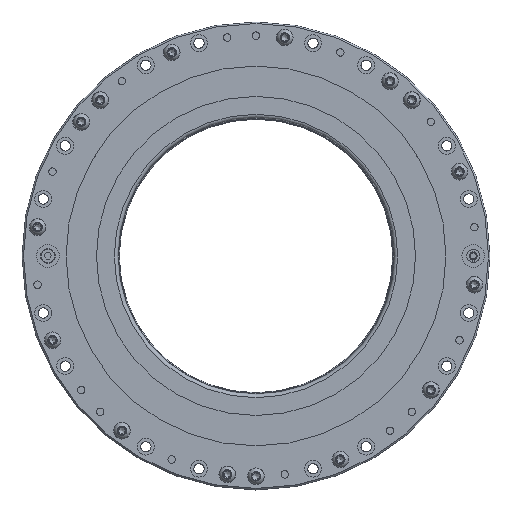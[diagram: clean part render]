
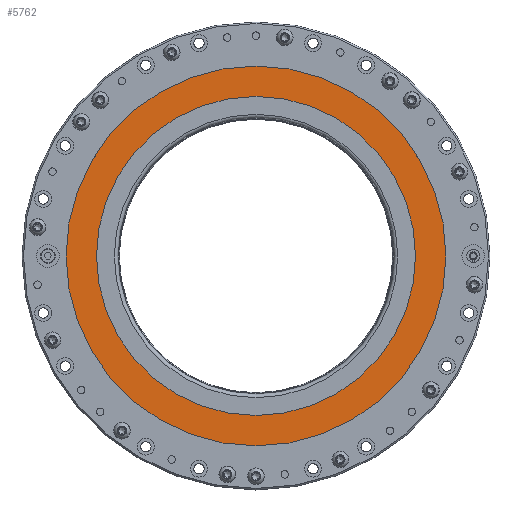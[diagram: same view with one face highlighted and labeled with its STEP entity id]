
A CAD part, top view. The second image highlights one B-rep face of the part: STEP entity #5762.
In plain terms, the highlighted planar face has unit normal (0, 0, 1) as drawn and (0, 0, -1) by its records, which use the part's own axes.
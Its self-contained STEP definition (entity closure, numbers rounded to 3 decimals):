
#394=PLANE('',#6199);
#573=CIRCLE('',#6200,105.);
#574=CIRCLE('',#6201,125.);
#1174=ORIENTED_EDGE('',*,*,#1938,.T.);
#1175=ORIENTED_EDGE('',*,*,#1939,.F.);
#1938=EDGE_CURVE('',#2396,#2396,#573,.T.);
#1939=EDGE_CURVE('',#2397,#2397,#574,.T.);
#2396=VERTEX_POINT('',#8957);
#2397=VERTEX_POINT('',#8959);
#3102=EDGE_LOOP('',(#1174));
#3103=EDGE_LOOP('',(#1175));
#3649=FACE_BOUND('',#3102,.T.);
#3650=FACE_BOUND('',#3103,.T.);
#5762=ADVANCED_FACE('',(#3649,#3650),#394,.F.);
#6199=AXIS2_PLACEMENT_3D('',#8955,#7097,#7098);
#6200=AXIS2_PLACEMENT_3D('',#8956,#7099,#7100);
#6201=AXIS2_PLACEMENT_3D('',#8958,#7101,#7102);
#7097=DIRECTION('',(0.,0.,1.));
#7098=DIRECTION('',(1.,0.,0.));
#7099=DIRECTION('',(0.,0.,1.));
#7100=DIRECTION('',(1.,0.,0.));
#7101=DIRECTION('',(0.,0.,1.));
#7102=DIRECTION('',(1.,0.,0.));
#8955=CARTESIAN_POINT('',(105.,0.,-5.82));
#8956=CARTESIAN_POINT('',(0.,0.,-5.82));
#8957=CARTESIAN_POINT('',(105.,0.,-5.82));
#8958=CARTESIAN_POINT('',(0.,0.,-5.82));
#8959=CARTESIAN_POINT('',(125.,0.,-5.82));
